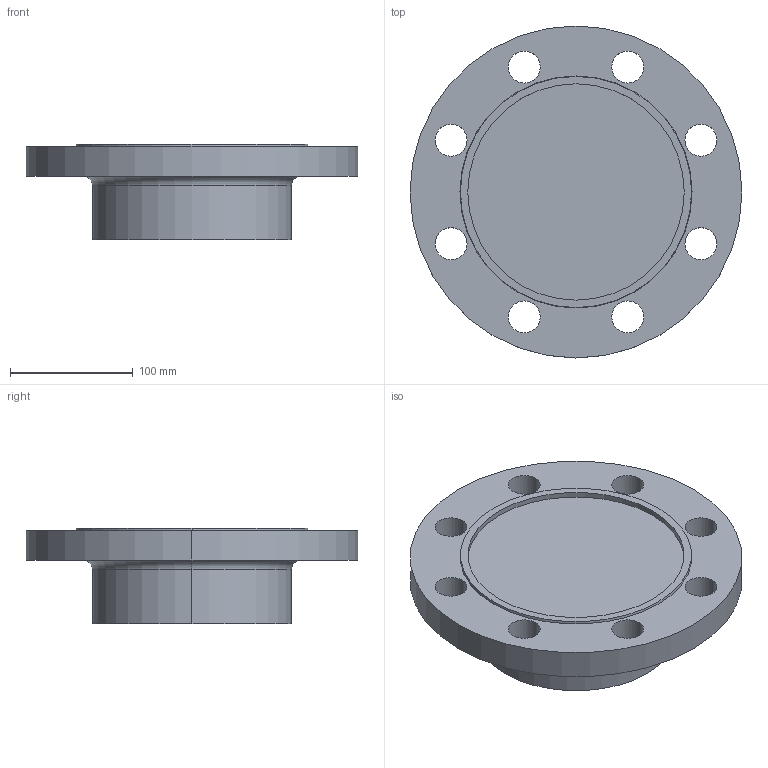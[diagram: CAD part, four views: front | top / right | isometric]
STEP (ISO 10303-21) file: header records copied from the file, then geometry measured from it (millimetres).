
FILE_DESCRIPTION (( 'STEP AP214' ), '1' );
FILE_NAME ('PN40 DN125 Type 21(i) - Type F Face.STEP', '2019-01-02T01:21:41', ( '' ), ( '' ), 'SwSTEP 2.0', 'SolidWorks 2019', '' );
FILE_SCHEMA (( 'AUTOMOTIVE_DESIGN' ));
Length unit declared in the file: millimetre
Products named in the file (1): PN40 DN125 Type 21(i) - Type F Face
Bounding box: 270 x 270 x 78 mm (x, y, z)
Volume: 2297410.5 mm3; surface area: 170283.5 mm2
Topology: 1 solids, 1 shells, 31 faces, 76 edges, 50 vertices
Faces by surface type: cylinder 22, plane 5, torus 2, cone 2
Entity records: 1012 total; most frequent: DIRECTION 192, CARTESIAN_POINT 158, ORIENTED_EDGE 152, AXIS2_PLACEMENT_3D 84, EDGE_CURVE 76, CIRCLE 52, VERTEX_POINT 50, EDGE_LOOP 50
